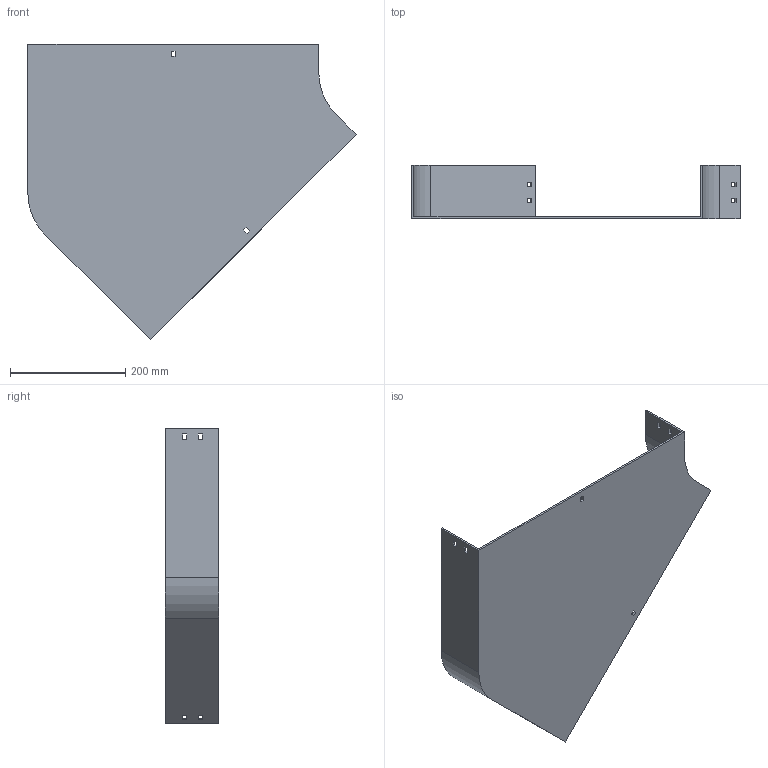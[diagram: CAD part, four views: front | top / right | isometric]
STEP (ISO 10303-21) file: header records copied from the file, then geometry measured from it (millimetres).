
FILE_DESCRIPTION (( 'STEP AP214' ), '1' );
FILE_NAME ('11B1I500.step', '2025-02-21T09:39:21', ( '' ), ( '' ), 'SwSTEP 2.0', 'SolidWorks 2023', '' );
FILE_SCHEMA (( 'AUTOMOTIVE_DESIGN' ));
Length unit declared in the file: millimetre
Products named in the file (1): 11B1I500
Bounding box: 568.64 x 92.5 x 512.45 mm (x, y, z)
Volume: 929714.1 mm3; surface area: 539919.4 mm2
Topology: 1 solids, 1 shells, 58 faces, 168 edges, 112 vertices
Faces by surface type: plane 54, cylinder 4
Entity records: 1943 total; most frequent: CARTESIAN_POINT 339, ORIENTED_EDGE 336, DIRECTION 294, EDGE_CURVE 168, LINE 160, VECTOR 160, VERTEX_POINT 112, EDGE_LOOP 78
